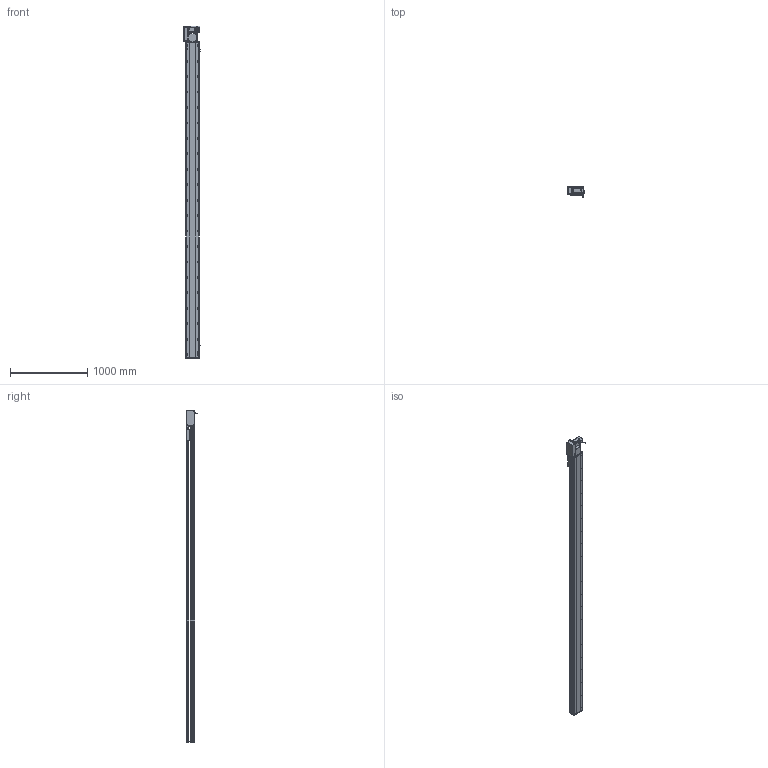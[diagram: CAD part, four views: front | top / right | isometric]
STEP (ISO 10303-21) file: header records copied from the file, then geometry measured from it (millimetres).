
FILE_DESCRIPTION (( 'STEP AP214' ), '1' );
FILE_NAME ('RTB17S-XX-3800-L-M75-C4.STEP', '2025-12-12T00:29:42', ( '' ), ( '' ), 'SwSTEP 2.0', 'SolidWorks 2018', '' );
FILE_SCHEMA (( 'AUTOMOTIVE_DESIGN' ));
Length unit declared in the file: millimetre
Products named in the file (15): RTB17S-XX-3800-L-M75-C4; RTB22S-GY-008-M75--萇儂啣^RTB17S-L-々湍釱蚾饜-750W_RTB17S-XX-XX-L-M75-C4; RMP17S-L-014-T20-P75--々湍釱^RTB17S-L-々湍釱蚾饜-750W_RTB17S-XX-XX-L-M75-C4; 750W萇儂^RTB17S-XX-XX-L-M75-C4; RTB17S-L-001-耜醱啣^RTB17S-XX-XX-L-M75-C4; RTB17S-L-007奻裔^RTB17S-XX-XX-L-M75-C4; RTB22S-GY-005P^RTB17S-L-々湍釱蚾饜-750W_RTB17S-XX-XX-L-M75-C4; RTB22S-GY-018P^RTB17S-L-々湍釱蚾饜-750W_RTB17S-XX-XX-L-M75-C4; RTB17S-L-004-賑釱^RTB17S-賑釱_RTB17S-XX-XX-L-M75-C4; RTB17S-L-々湍釱蚾饜-750W^RTB17S-XX-XX-L-M75-C4; RTH13-BL-012覜茼え俋离^RTB17S-賑釱_RTB17S-XX-XX-L-M75-C4; RTB17S-賑釱^RTB17S-XX-XX-L-M75-C4; RTB22S-GY-017P^RTB17S-L-々湍釱蚾饜-750W_RTB17S-XX-XX-L-M75-C4; EE672^RTB17S-XX-XX-L-M75-C4; RTB17-R-011菁釱^RTB17S-XX-XX-L-M75-C4
Assembly tree (17 placements, depth 3):
  RTB17S-XX-3800-L-M75-C4
    RTB17-R-011菁釱^RTB17S-XX-XX-L-M75-C4
    EE672^RTB17S-XX-XX-L-M75-C4  x3
    RTB17S-L-001-耜醱啣^RTB17S-XX-XX-L-M75-C4
    RTB17S-賑釱^RTB17S-XX-XX-L-M75-C4
      RTB17S-L-004-賑釱^RTB17S-賑釱_RTB17S-XX-XX-L-M75-C4
      RTH13-BL-012覜茼え俋离^RTB17S-賑釱_RTB17S-XX-XX-L-M75-C4
    RTB17S-L-007奻裔^RTB17S-XX-XX-L-M75-C4
    750W萇儂^RTB17S-XX-XX-L-M75-C4
    RTB17S-L-々湍釱蚾饜-750W^RTB17S-XX-XX-L-M75-C4
      RMP17S-L-014-T20-P75--々湍釱^RTB17S-L-々湍釱蚾饜-750W_RTB17S-XX-XX-L-M75-C4
      RTB22S-GY-005P^RTB17S-L-々湍釱蚾饜-750W_RTB17S-XX-XX-L-M75-C4
      RTB22S-GY-017P^RTB17S-L-々湍釱蚾饜-750W_RTB17S-XX-XX-L-M75-C4  x2
      RTB22S-GY-008-M75--萇儂啣^RTB17S-L-々湍釱蚾饜-750W_RTB17S-XX-XX-L-M75-C4
      RTB22S-GY-018P^RTB17S-L-々湍釱蚾饜-750W_RTB17S-XX-XX-L-M75-C4
Bounding box: 210.4 x 152.7 x 4299 mm (x, y, z)
Volume: 29707005 mm3; surface area: 5509341.5 mm2
Topology: 17 solids, 17 shells, 2313 faces, 6538 edges, 4238 vertices
Faces by surface type: plane 998, cylinder 899, bspline 294, cone 110, sphere 8, torus 4
Entity records: 68854 total; most frequent: CARTESIAN_POINT 20602, ORIENTED_EDGE 9920, DIRECTION 9122, EDGE_CURVE 4960, AXIS2_PLACEMENT_3D 3258, VERTEX_POINT 3242, VECTOR 2606, LINE 2606
